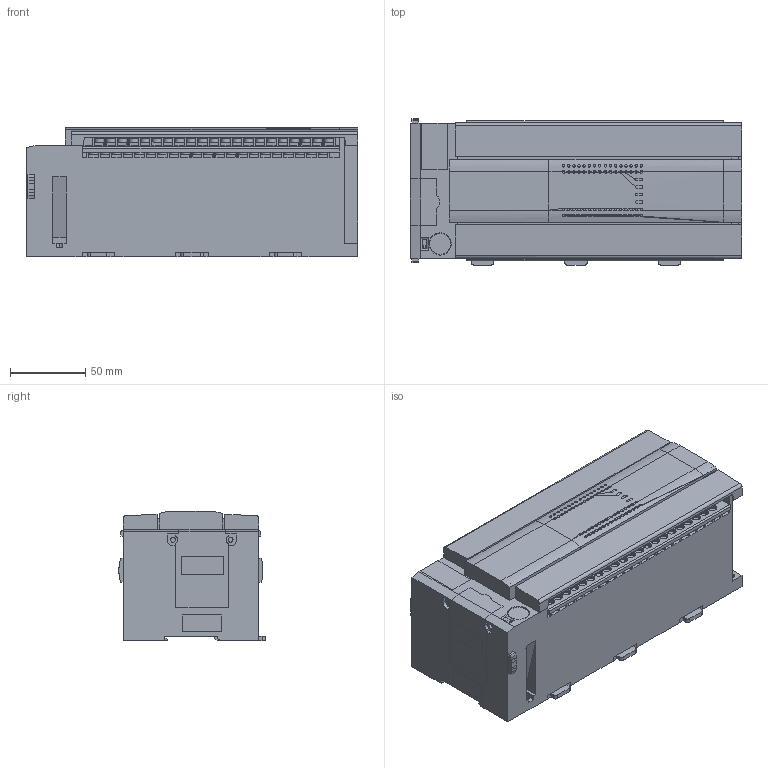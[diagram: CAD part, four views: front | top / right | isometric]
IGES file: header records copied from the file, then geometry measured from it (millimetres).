
Global section: file name: D:\tmp\PARASOLID_101216\FX3U-64MT_ES\FX3U-64MT_ES5.igs; preprocessor: I-DEAS 3D IGES Translator 12; date: 20110223.134151; units: millimetre
Bounding box: 220 x 97.13 x 86 mm (x, y, z)
Volume: 1532649 mm3; surface area: 172848.8 mm2
Topology: 16 solids, 16 shells, 1884 faces, 5075 edges, 3352 vertices
Faces by surface type: bspline 1884
